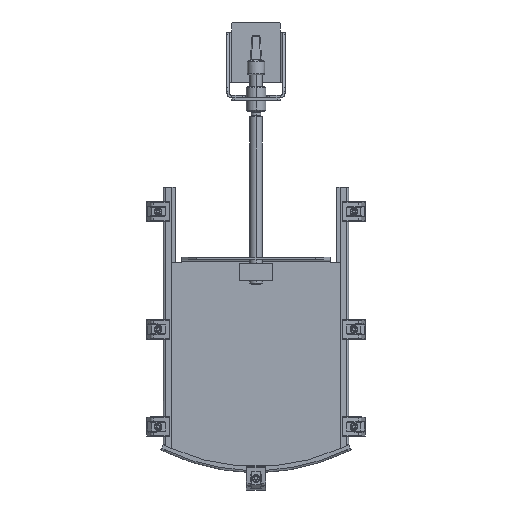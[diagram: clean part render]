
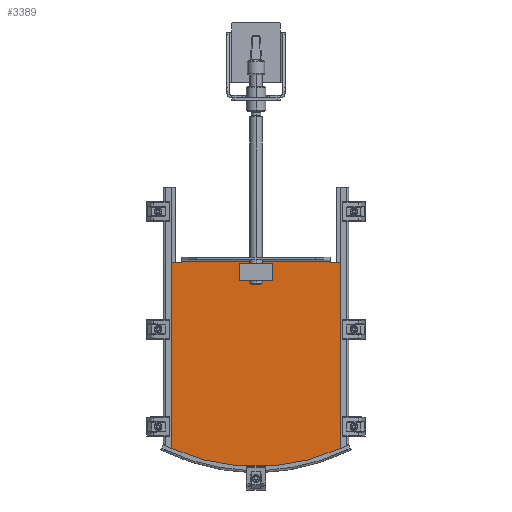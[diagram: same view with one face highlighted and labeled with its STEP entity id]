
A CAD part, top view. The second image highlights one B-rep face of the part: STEP entity #3389.
In plain terms, the highlighted planar face has unit normal (0, 0, 1).
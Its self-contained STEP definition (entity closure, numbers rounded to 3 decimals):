
#94 = CIRCLE ( 'NONE', #7579, 2. ) ;
#262 = DIRECTION ( 'NONE',  ( 0., -1., 0. ) ) ;
#354 = ORIENTED_EDGE ( 'NONE', *, *, #21010, .F. ) ;
#1958 = DIRECTION ( 'NONE',  ( 1., 0., 0. ) ) ;
#2884 = EDGE_CURVE ( 'NONE', #33855, #42053, #50941, .T. ) ;
#3389 = ADVANCED_FACE ( 'NONE', ( #39571, #31779 ), #51037, .T. ) ;
#3586 = VECTOR ( 'NONE', #7932, 1000. ) ;
#3744 = CARTESIAN_POINT ( 'NONE',  ( -180., 422., 33. ) ) ;
#5292 = DIRECTION ( 'NONE',  ( 0., 0., 1. ) ) ;
#5852 = CARTESIAN_POINT ( 'NONE',  ( 0., 420., 33. ) ) ;
#5919 = CARTESIAN_POINT ( 'NONE',  ( 34., 417.5, 33. ) ) ;
#6777 = VECTOR ( 'NONE', #35615, 1000. ) ;
#7579 = AXIS2_PLACEMENT_3D ( 'NONE', #28430, #35702, #8429 ) ;
#7932 = DIRECTION ( 'NONE',  ( -1., 0., 0. ) ) ;
#8429 = DIRECTION ( 'NONE',  ( 1., 0., 0. ) ) ;
#8643 = EDGE_CURVE ( 'NONE', #49291, #30131, #30233, .T. ) ;
#8863 = AXIS2_PLACEMENT_3D ( 'NONE', #34244, #27295, #50628 ) ;
#9437 = AXIS2_PLACEMENT_3D ( 'NONE', #20092, #5292, #28419 ) ;
#10519 = CARTESIAN_POINT ( 'NONE',  ( 173.172, 420., 33. ) ) ;
#10934 = CARTESIAN_POINT ( 'NONE',  ( 154., 420., 33. ) ) ;
#11057 = CARTESIAN_POINT ( 'NONE',  ( -173.172, 420., 33. ) ) ;
#11463 = LINE ( 'NONE', #43857, #27111 ) ;
#11862 = VERTEX_POINT ( 'NONE', #47513 ) ;
#11884 = EDGE_CURVE ( 'NONE', #18970, #33855, #11463, .T. ) ;
#13047 = ORIENTED_EDGE ( 'NONE', *, *, #11884, .T. ) ;
#13051 = CARTESIAN_POINT ( 'NONE',  ( -152., 422., 33. ) ) ;
#13141 = ORIENTED_EDGE ( 'NONE', *, *, #39265, .F. ) ;
#16192 = LINE ( 'NONE', #26918, #32825 ) ;
#18040 = DIRECTION ( 'NONE',  ( -1., 0., 0. ) ) ;
#18819 = ORIENTED_EDGE ( 'NONE', *, *, #24819, .T. ) ;
#18970 = VERTEX_POINT ( 'NONE', #28527 ) ;
#19429 = AXIS2_PLACEMENT_3D ( 'NONE', #5852, #21716, #1958 ) ;
#19769 = CARTESIAN_POINT ( 'NONE',  ( -34., 417.5, 33. ) ) ;
#19848 = ORIENTED_EDGE ( 'NONE', *, *, #25859, .F. ) ;
#20012 = VERTEX_POINT ( 'NONE', #24728 ) ;
#20092 = CARTESIAN_POINT ( 'NONE',  ( -180., 42.741, 33. ) ) ;
#20619 = DIRECTION ( 'NONE',  ( 1., 0., 0. ) ) ;
#21010 = EDGE_CURVE ( 'NONE', #23470, #25314, #16192, .T. ) ;
#21716 = DIRECTION ( 'NONE',  ( 0., 0., 1. ) ) ;
#22152 = ORIENTED_EDGE ( 'NONE', *, *, #2884, .T. ) ;
#22316 = VECTOR ( 'NONE', #27802, 1000. ) ;
#22348 = EDGE_CURVE ( 'NONE', #25314, #20012, #23167, .T. ) ;
#22808 = EDGE_CURVE ( 'NONE', #36526, #51021, #94, .T. ) ;
#23167 = LINE ( 'NONE', #47499, #22316 ) ;
#23470 = VERTEX_POINT ( 'NONE', #5919 ) ;
#24728 = CARTESIAN_POINT ( 'NONE',  ( -34., 382.5, 33. ) ) ;
#24819 = EDGE_CURVE ( 'NONE', #51021, #18970, #46613, .T. ) ;
#25314 = VERTEX_POINT ( 'NONE', #19769 ) ;
#25859 = EDGE_CURVE ( 'NONE', #49291, #42053, #42574, .T. ) ;
#26337 = CARTESIAN_POINT ( 'NONE',  ( 34., 417.5, 33. ) ) ;
#26918 = CARTESIAN_POINT ( 'NONE',  ( -34., 417.5, 33. ) ) ;
#27111 = VECTOR ( 'NONE', #262, 1000. ) ;
#27295 = DIRECTION ( 'NONE',  ( 0., 0., -1. ) ) ;
#27486 = EDGE_CURVE ( 'NONE', #30131, #11862, #37033, .T. ) ;
#27802 = DIRECTION ( 'NONE',  ( 0., -1., 0. ) ) ;
#27913 = LINE ( 'NONE', #3744, #30386 ) ;
#28419 = DIRECTION ( 'NONE',  ( 1., 0., 0. ) ) ;
#28430 = CARTESIAN_POINT ( 'NONE',  ( -154., 422., 33. ) ) ;
#28527 = CARTESIAN_POINT ( 'NONE',  ( -172.995, 420., 33. ) ) ;
#28621 = VECTOR ( 'NONE', #38956, 1000. ) ;
#29324 = VECTOR ( 'NONE', #18040, 1000. ) ;
#29705 = DIRECTION ( 'NONE',  ( 0., 1., 0. ) ) ;
#30131 = VERTEX_POINT ( 'NONE', #10934 ) ;
#30146 = CARTESIAN_POINT ( 'NONE',  ( 172.995, 42.741, 33. ) ) ;
#30233 = LINE ( 'NONE', #10519, #29324 ) ;
#30237 = ORIENTED_EDGE ( 'NONE', *, *, #22808, .T. ) ;
#30386 = VECTOR ( 'NONE', #20619, 1000. ) ;
#31779 = FACE_BOUND ( 'NONE', #44639, .T. ) ;
#32825 = VECTOR ( 'NONE', #42683, 1000. ) ;
#33308 = ORIENTED_EDGE ( 'NONE', *, *, #40809, .F. ) ;
#33309 = LINE ( 'NONE', #26337, #45396 ) ;
#33855 = VERTEX_POINT ( 'NONE', #46571 ) ;
#34244 = CARTESIAN_POINT ( 'NONE',  ( 154., 422., 33. ) ) ;
#34979 = VERTEX_POINT ( 'NONE', #37183 ) ;
#35615 = DIRECTION ( 'NONE',  ( 1., 0., 0. ) ) ;
#35702 = DIRECTION ( 'NONE',  ( 0., 0., -1. ) ) ;
#35868 = ORIENTED_EDGE ( 'NONE', *, *, #43947, .F. ) ;
#36526 = VERTEX_POINT ( 'NONE', #13051 ) ;
#37033 = CIRCLE ( 'NONE', #8863, 2. ) ;
#37183 = CARTESIAN_POINT ( 'NONE',  ( 34., 382.5, 33. ) ) ;
#38956 = DIRECTION ( 'NONE',  ( 0., -1., 0. ) ) ;
#39265 = EDGE_CURVE ( 'NONE', #34979, #23470, #33309, .T. ) ;
#39571 = FACE_OUTER_BOUND ( 'NONE', #48196, .T. ) ;
#39975 = LINE ( 'NONE', #43871, #6777 ) ;
#40717 = ORIENTED_EDGE ( 'NONE', *, *, #27486, .T. ) ;
#40809 = EDGE_CURVE ( 'NONE', #36526, #11862, #27913, .T. ) ;
#42053 = VERTEX_POINT ( 'NONE', #46221 ) ;
#42574 = LINE ( 'NONE', #30146, #28621 ) ;
#42683 = DIRECTION ( 'NONE',  ( -1., 0., 0. ) ) ;
#43390 = ORIENTED_EDGE ( 'NONE', *, *, #8643, .T. ) ;
#43534 = CARTESIAN_POINT ( 'NONE',  ( 172.995, 420., 33. ) ) ;
#43857 = CARTESIAN_POINT ( 'NONE',  ( -172.995, -47.788, 33. ) ) ;
#43871 = CARTESIAN_POINT ( 'NONE',  ( -34., 382.5, 33. ) ) ;
#43947 = EDGE_CURVE ( 'NONE', #20012, #34979, #39975, .T. ) ;
#44639 = EDGE_LOOP ( 'NONE', ( #45021, #354, #13141, #35868 ) ) ;
#45021 = ORIENTED_EDGE ( 'NONE', *, *, #22348, .F. ) ;
#45396 = VECTOR ( 'NONE', #29705, 1000. ) ;
#46221 = CARTESIAN_POINT ( 'NONE',  ( 172.995, 37.282, 33. ) ) ;
#46571 = CARTESIAN_POINT ( 'NONE',  ( -172.995, 37.282, 33. ) ) ;
#46613 = LINE ( 'NONE', #11057, #3586 ) ;
#47499 = CARTESIAN_POINT ( 'NONE',  ( -34., 417.5, 33. ) ) ;
#47513 = CARTESIAN_POINT ( 'NONE',  ( 152., 422., 33. ) ) ;
#48196 = EDGE_LOOP ( 'NONE', ( #19848, #43390, #40717, #33308, #30237, #18819, #13047, #22152 ) ) ;
#48327 = CARTESIAN_POINT ( 'NONE',  ( -154., 420., 33. ) ) ;
#49291 = VERTEX_POINT ( 'NONE', #43534 ) ;
#50628 = DIRECTION ( 'NONE',  ( 1., 0., 0. ) ) ;
#50941 = CIRCLE ( 'NONE', #19429, 420. ) ;
#51021 = VERTEX_POINT ( 'NONE', #48327 ) ;
#51037 = PLANE ( 'NONE',  #9437 ) ;
